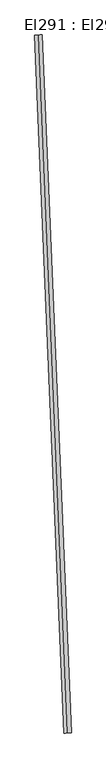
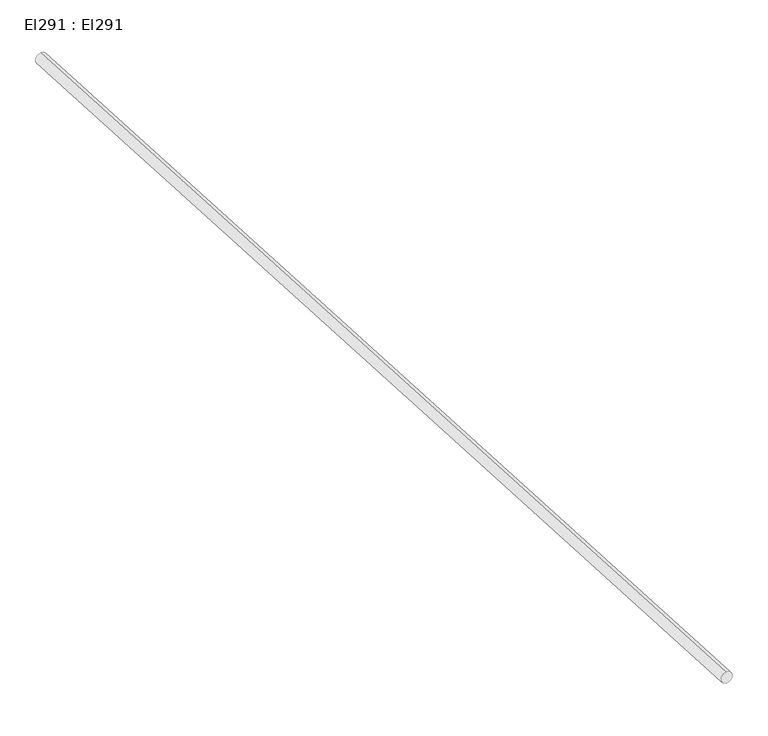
"""IFC4 building model written with IfcOpenShell, lengths in millimetres: cable carrier segment geometry, El291 : El291."""

from ifc_helpers import new_model, si_unit, point, frame, frame_2d, origin, place, context, project, spatial, circle_curve, trimmed, segment, composite_curve, outline, extrude, source, transform, mapped, element, save


def el291_el291_9c7f990c(model_context):
    return source(origin(), model_context, "Body", "SweptSolid", [
        extrude(outline(composite_curve([segment(trimmed(circle_curve(frame_2d((0.0, -9.5)), 9.5), [point((0.0, -19.0))], [point((0.0, 0.0))], False, "CARTESIAN"), True, "CONTINUOUS"), segment(trimmed(circle_curve(frame_2d((0.0, -9.5)), 9.5), [point((0.0, 0.0))], [point((0.0, -19.0))], False, "CARTESIAN"), True, "CONTINUOUS")], self_intersect=False)), frame((12164.4899395, 14766.3748139, 2959.5), z_axis=(-0.04201390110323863, 0.9991170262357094, 0.0), x_axis=(-0.9991170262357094, -0.04201390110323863, 0.0)), (0.0, 0.0, 1.0), 1808.45),
    ])


if __name__ == "__main__":
    model = new_model("IFC4")
    model_context = context("Model", 3, world=origin())
    ifc_project = project(units=[si_unit("LENGTHUNIT", "METRE", prefix="MILLI")], contexts=[model_context])
    site = spatial("IfcSite", under=ifc_project)
    building = spatial("IfcBuilding", under=site)
    placement = place(None, origin())
    el291_el291_shape = el291_el291_9c7f990c(model_context)
    element("IfcCableCarrierSegment", 1, ObjectType="El291 : El291", at=placement, inside=building, context=model_context, shape_type="MappedRepresentation", body=[
        mapped(el291_el291_shape, transform((0.0, 0.0, 0.0), x_axis=(1.0, 0.0, 0.0), y_axis=(0.0, 1.0, 0.0), z_axis=(0.0, 0.0, 1.0))),
    ])
    save(model, "model.ifc")
